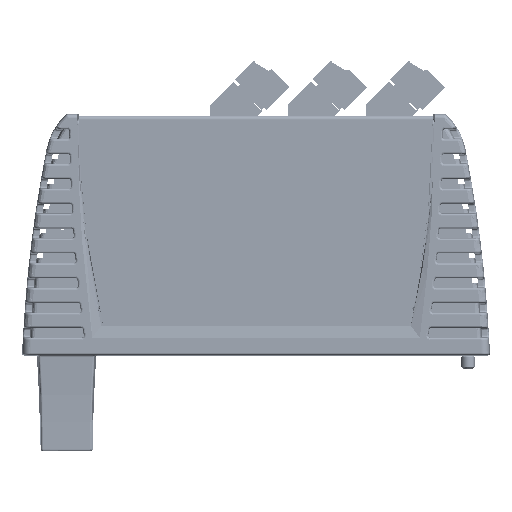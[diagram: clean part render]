
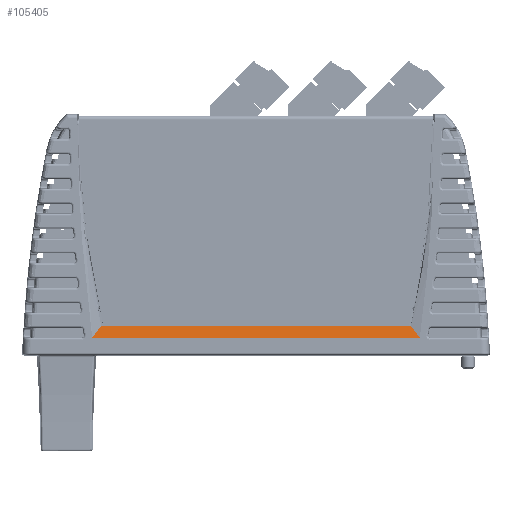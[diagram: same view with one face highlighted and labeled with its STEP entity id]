
A CAD part, left-side view. The second image highlights one B-rep face of the part: STEP entity #105405.
In plain terms, the highlighted planar face has unit normal (-0.986, 0, 0.164).
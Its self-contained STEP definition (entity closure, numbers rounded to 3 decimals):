
#251 = VECTOR ( 'NONE', #91673, 1000. ) ;
#2901 = ORIENTED_EDGE ( 'NONE', *, *, #112717, .F. ) ;
#4495 = VERTEX_POINT ( 'NONE', #151387 ) ;
#38008 = DIRECTION ( 'NONE',  ( -0.164, 0., -0.986 ) ) ;
#43569 = DIRECTION ( 'NONE',  ( -0.132, -0.595, -0.793 ) ) ;
#48530 = CARTESIAN_POINT ( 'NONE',  ( -8.7, -13.75, -27.5 ) ) ;
#48639 = ORIENTED_EDGE ( 'NONE', *, *, #109294, .F. ) ;
#52158 = CARTESIAN_POINT ( 'NONE',  ( -8.2, -39., -24.5 ) ) ;
#55675 = VECTOR ( 'NONE', #136009, 1000. ) ;
#59938 = CARTESIAN_POINT ( 'NONE',  ( -8.2, -39., -24.5 ) ) ;
#65614 = CARTESIAN_POINT ( 'NONE',  ( -8.7, 41.25, -27.5 ) ) ;
#75177 = AXIS2_PLACEMENT_3D ( 'NONE', #173392, #140139, #38008 ) ;
#89875 = ORIENTED_EDGE ( 'NONE', *, *, #134450, .F. ) ;
#91470 = LINE ( 'NONE', #59938, #215388 ) ;
#91673 = DIRECTION ( 'NONE',  ( 0.132, -0.595, 0.793 ) ) ;
#94743 = ORIENTED_EDGE ( 'NONE', *, *, #128012, .F. ) ;
#102242 = CARTESIAN_POINT ( 'NONE',  ( -8.7, -41.25, -27.5 ) ) ;
#105405 = ADVANCED_FACE ( 'NONE', ( #154384 ), #190203, .F. ) ;
#108375 = B_SPLINE_CURVE_WITH_KNOTS ( 'NONE', 3,
 ( #150612, #48530, #167585, #65614 ),
 .UNSPECIFIED., .F., .F.,
 ( 4, 4 ),
 ( 0., 1. ),
 .UNSPECIFIED. ) ;
#109294 = EDGE_CURVE ( 'NONE', #110972, #173009, #91470, .T. ) ;
#110972 = VERTEX_POINT ( 'NONE', #52158 ) ;
#112717 = EDGE_CURVE ( 'NONE', #180071, #4495, #136554, .T. ) ;
#122167 = EDGE_LOOP ( 'NONE', ( #89875, #2901, #94743, #48639 ) ) ;
#125983 = CARTESIAN_POINT ( 'NONE',  ( -8.7, 41.25, -27.5 ) ) ;
#128012 = EDGE_CURVE ( 'NONE', #173009, #180071, #108375, .T. ) ;
#134450 = EDGE_CURVE ( 'NONE', #4495, #110972, #191143, .T. ) ;
#136009 = DIRECTION ( 'NONE',  ( 0., -1., 0. ) ) ;
#136554 = LINE ( 'NONE', #125983, #251 ) ;
#140139 = DIRECTION ( 'NONE',  ( 0.986, 0., -0.164 ) ) ;
#150612 = CARTESIAN_POINT ( 'NONE',  ( -8.7, -41.25, -27.5 ) ) ;
#151387 = CARTESIAN_POINT ( 'NONE',  ( -8.2, 39., -24.5 ) ) ;
#152974 = CARTESIAN_POINT ( 'NONE',  ( -8.2, -39.468, -24.5 ) ) ;
#154384 = FACE_OUTER_BOUND ( 'NONE', #122167, .T. ) ;
#167585 = CARTESIAN_POINT ( 'NONE',  ( -8.7, 13.75, -27.5 ) ) ;
#173009 = VERTEX_POINT ( 'NONE', #102242 ) ;
#173392 = CARTESIAN_POINT ( 'NONE',  ( -8.7, 41.745, -27.5 ) ) ;
#180071 = VERTEX_POINT ( 'NONE', #203643 ) ;
#190203 = PLANE ( 'NONE',  #75177 ) ;
#191143 = LINE ( 'NONE', #152974, #55675 ) ;
#203643 = CARTESIAN_POINT ( 'NONE',  ( -8.7, 41.25, -27.5 ) ) ;
#215388 = VECTOR ( 'NONE', #43569, 1000. ) ;
